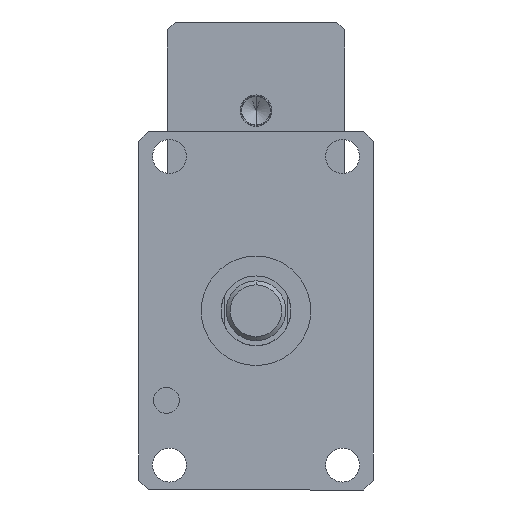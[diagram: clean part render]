
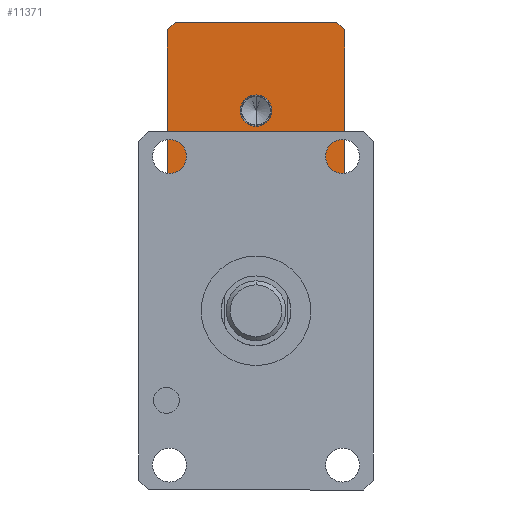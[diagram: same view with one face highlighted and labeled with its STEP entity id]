
A CAD part, front view. The second image highlights one B-rep face of the part: STEP entity #11371.
In plain terms, the highlighted planar face has unit normal (0, -1, 0).
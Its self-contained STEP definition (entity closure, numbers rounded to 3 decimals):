
#110 = VERTEX_POINT ( 'NONE', #118 ) ;
#118 = CARTESIAN_POINT ( 'NONE',  ( 40.5, 160., 145. ) ) ;
#321 = DIRECTION ( 'NONE',  ( 0., 0., -1. ) ) ;
#342 = EDGE_CURVE ( 'NONE', #11159, #10531, #8795, .T. ) ;
#662 = VECTOR ( 'NONE', #11122, 1000. ) ;
#810 = CARTESIAN_POINT ( 'NONE',  ( 0., 160., 100.5 ) ) ;
#812 = EDGE_CURVE ( 'NONE', #10531, #10875, #4203, .T. ) ;
#893 = EDGE_CURVE ( 'NONE', #10875, #7283, #3573, .T. ) ;
#926 = ORIENTED_EDGE ( 'NONE', *, *, #1259, .T. ) ;
#1045 = CARTESIAN_POINT ( 'NONE',  ( 0., 160., 108.403 ) ) ;
#1161 = EDGE_CURVE ( 'NONE', #3206, #7283, #10265, .T. ) ;
#1250 = VERTEX_POINT ( 'NONE', #7712 ) ;
#1259 = EDGE_CURVE ( 'NONE', #3206, #110, #6175, .T. ) ;
#1271 = CARTESIAN_POINT ( 'NONE',  ( -44.5, 160., 145. ) ) ;
#1272 = FACE_OUTER_BOUND ( 'NONE', #1485, .T. ) ;
#1485 = EDGE_LOOP ( 'NONE', ( #12063, #6138, #8872, #1627, #7138, #926, #3610, #4712 ) ) ;
#1494 = EDGE_CURVE ( 'NONE', #2890, #110, #3711, .T. ) ;
#1568 = EDGE_CURVE ( 'NONE', #2890, #6278, #5410, .T. ) ;
#1627 = ORIENTED_EDGE ( 'NONE', *, *, #893, .T. ) ;
#1795 = CARTESIAN_POINT ( 'NONE',  ( -40.5, 160., 56. ) ) ;
#1800 = DIRECTION ( 'NONE',  ( 0., 0., -1. ) ) ;
#1904 = VECTOR ( 'NONE', #8950, 1000. ) ;
#2261 = CARTESIAN_POINT ( 'NONE',  ( 40.5, 160., 56. ) ) ;
#2483 = CIRCLE ( 'NONE', #3948, 7.903 ) ;
#2663 = LINE ( 'NONE', #1271, #9822 ) ;
#2795 = CARTESIAN_POINT ( 'NONE',  ( -44.5, 160., 60. ) ) ;
#2890 = VERTEX_POINT ( 'NONE', #4010 ) ;
#3161 = CARTESIAN_POINT ( 'NONE',  ( 44.5, 160., 56. ) ) ;
#3206 = VERTEX_POINT ( 'NONE', #11801 ) ;
#3399 = DIRECTION ( 'NONE',  ( 0.707, 0., -0.707 ) ) ;
#3401 = VECTOR ( 'NONE', #11002, 1000. ) ;
#3573 = LINE ( 'NONE', #10175, #662 ) ;
#3610 = ORIENTED_EDGE ( 'NONE', *, *, #1494, .F. ) ;
#3711 = LINE ( 'NONE', #4205, #3401 ) ;
#3843 = DIRECTION ( 'NONE',  ( -0.707, 0., 0.707 ) ) ;
#3948 = AXIS2_PLACEMENT_3D ( 'NONE', #11943, #6203, #321 ) ;
#4010 = CARTESIAN_POINT ( 'NONE',  ( -40.5, 160., 145. ) ) ;
#4043 = DIRECTION ( 'NONE',  ( 0., 1., 0. ) ) ;
#4203 = LINE ( 'NONE', #3161, #1904 ) ;
#4205 = CARTESIAN_POINT ( 'NONE',  ( 44.5, 160., 145. ) ) ;
#4242 = CIRCLE ( 'NONE', #10734, 7.903 ) ;
#4712 = ORIENTED_EDGE ( 'NONE', *, *, #1568, .T. ) ;
#5088 = CARTESIAN_POINT ( 'NONE',  ( -44.5, 160., 60. ) ) ;
#5104 = VECTOR ( 'NONE', #11201, 1000. ) ;
#5410 = LINE ( 'NONE', #12146, #5104 ) ;
#5908 = EDGE_LOOP ( 'NONE', ( #10763, #9190 ) ) ;
#6138 = ORIENTED_EDGE ( 'NONE', *, *, #342, .T. ) ;
#6175 = LINE ( 'NONE', #9692, #8775 ) ;
#6203 = DIRECTION ( 'NONE',  ( 0., -1., 0. ) ) ;
#6278 = VERTEX_POINT ( 'NONE', #8185 ) ;
#6960 = CARTESIAN_POINT ( 'NONE',  ( 44.5, 160., 145. ) ) ;
#7138 = ORIENTED_EDGE ( 'NONE', *, *, #1161, .F. ) ;
#7283 = VERTEX_POINT ( 'NONE', #9545 ) ;
#7410 = VECTOR ( 'NONE', #8734, 1000. ) ;
#7661 = DIRECTION ( 'NONE',  ( 0., -1., 0. ) ) ;
#7712 = CARTESIAN_POINT ( 'NONE',  ( 0., 160., 92.597 ) ) ;
#7764 = CARTESIAN_POINT ( 'NONE',  ( 44.5, 160., 145. ) ) ;
#8185 = CARTESIAN_POINT ( 'NONE',  ( -44.5, 160., 141. ) ) ;
#8734 = DIRECTION ( 'NONE',  ( 0., 0., -1. ) ) ;
#8775 = VECTOR ( 'NONE', #3843, 1000. ) ;
#8795 = LINE ( 'NONE', #5088, #11307 ) ;
#8841 = EDGE_CURVE ( 'NONE', #9870, #1250, #4242, .T. ) ;
#8872 = ORIENTED_EDGE ( 'NONE', *, *, #812, .T. ) ;
#8950 = DIRECTION ( 'NONE',  ( 1., 0., 0. ) ) ;
#9190 = ORIENTED_EDGE ( 'NONE', *, *, #8841, .F. ) ;
#9545 = CARTESIAN_POINT ( 'NONE',  ( 44.5, 160., 60. ) ) ;
#9692 = CARTESIAN_POINT ( 'NONE',  ( 40.5, 160., 145. ) ) ;
#9822 = VECTOR ( 'NONE', #11106, 1000. ) ;
#9864 = PLANE ( 'NONE',  #10457 ) ;
#9870 = VERTEX_POINT ( 'NONE', #1045 ) ;
#10175 = CARTESIAN_POINT ( 'NONE',  ( 44.5, 160., 60. ) ) ;
#10265 = LINE ( 'NONE', #7764, #7410 ) ;
#10457 = AXIS2_PLACEMENT_3D ( 'NONE', #6960, #4043, #10813 ) ;
#10531 = VERTEX_POINT ( 'NONE', #1795 ) ;
#10734 = AXIS2_PLACEMENT_3D ( 'NONE', #810, #7661, #1800 ) ;
#10763 = ORIENTED_EDGE ( 'NONE', *, *, #11875, .F. ) ;
#10813 = DIRECTION ( 'NONE',  ( 0., 0., 1. ) ) ;
#10875 = VERTEX_POINT ( 'NONE', #2261 ) ;
#10890 = EDGE_CURVE ( 'NONE', #6278, #11159, #2663, .T. ) ;
#11002 = DIRECTION ( 'NONE',  ( 1., 0., 0. ) ) ;
#11106 = DIRECTION ( 'NONE',  ( 0., 0., -1. ) ) ;
#11122 = DIRECTION ( 'NONE',  ( 0.707, 0., 0.707 ) ) ;
#11159 = VERTEX_POINT ( 'NONE', #2795 ) ;
#11201 = DIRECTION ( 'NONE',  ( -0.707, 0., -0.707 ) ) ;
#11289 = FACE_BOUND ( 'NONE', #5908, .T. ) ;
#11307 = VECTOR ( 'NONE', #3399, 1000. ) ;
#11371 = ADVANCED_FACE ( 'NONE', ( #11289, #1272 ), #9864, .F. ) ;
#11801 = CARTESIAN_POINT ( 'NONE',  ( 44.5, 160., 141. ) ) ;
#11875 = EDGE_CURVE ( 'NONE', #1250, #9870, #2483, .T. ) ;
#11943 = CARTESIAN_POINT ( 'NONE',  ( 0., 160., 100.5 ) ) ;
#12063 = ORIENTED_EDGE ( 'NONE', *, *, #10890, .T. ) ;
#12146 = CARTESIAN_POINT ( 'NONE',  ( -40.5, 160., 145. ) ) ;
